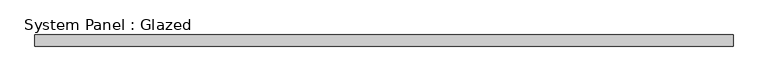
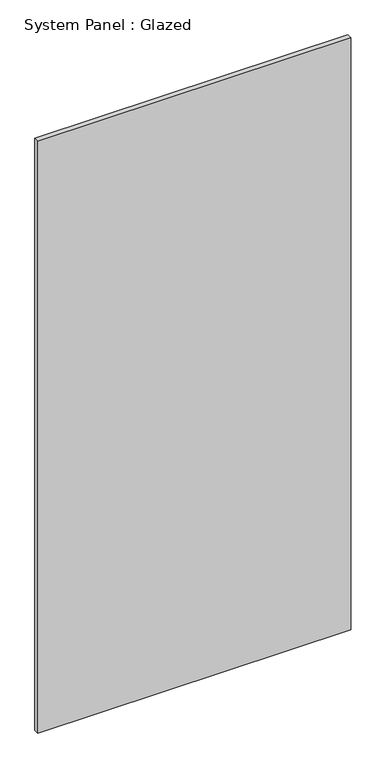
"""IFC4 building model written with IfcOpenShell, lengths in millimetres: plate geometry, System Panel : Glazed."""

from ifc_helpers import new_model, si_unit, origin, origin_with_axes, place, context, project, spatial, polyline, outline, extrude, source, transform, mapped, element, save


def system_panel_glazed_8bf869fa(model_context):
    return source(origin(), model_context, "Body", "SweptSolid", [
        extrude(outline(polyline([(762.0, -49.5), (-762.0, -49.5), (-762.0, -24.5), (762.0, -24.5), (762.0, -49.5)])), origin_with_axes(), (0.0, 0.0, 1.0), 3048.0),
    ])


if __name__ == "__main__":
    model = new_model("IFC4")
    model_context = context("Model", 3, world=origin())
    ifc_project = project(units=[si_unit("LENGTHUNIT", "METRE", prefix="MILLI")], contexts=[model_context])
    site = spatial("IfcSite", under=ifc_project)
    building = spatial("IfcBuilding", under=site)
    placement = place(None, origin())
    system_panel_glazed_shape = system_panel_glazed_8bf869fa(model_context)
    element("IfcPlate", 1, ObjectType="System Panel : Glazed", at=placement, inside=building, context=model_context, shape_type="MappedRepresentation", body=[
        mapped(system_panel_glazed_shape, transform((0.0, 0.0, 0.0), x_axis=(1.0, 0.0, 0.0), y_axis=(0.0, 1.0, 0.0), z_axis=(0.0, 0.0, 1.0))),
    ])
    save(model, "model.ifc")
